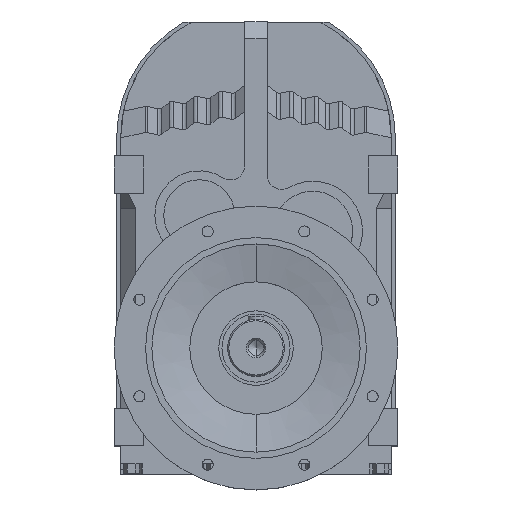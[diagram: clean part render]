
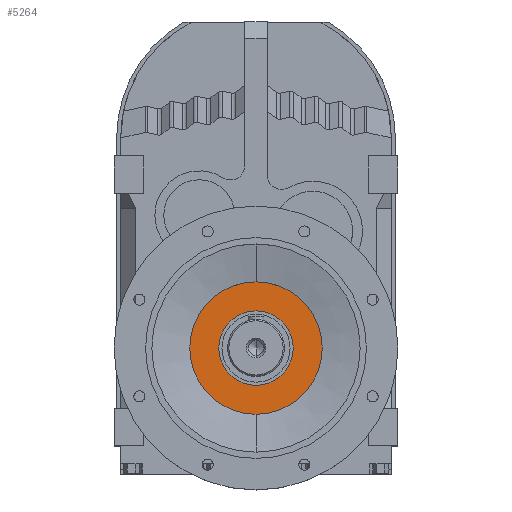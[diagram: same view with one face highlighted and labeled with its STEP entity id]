
A CAD part, top view. The second image highlights one B-rep face of the part: STEP entity #5264.
In plain terms, the highlighted planar face has unit normal (0, 0, 1).
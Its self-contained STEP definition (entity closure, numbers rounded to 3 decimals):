
#762 = CYLINDRICAL_SURFACE('',#763,106.5);
#763 = AXIS2_PLACEMENT_3D('',#764,#765,#766);
#764 = CARTESIAN_POINT('',(0.,-332.4,110.123));
#765 = DIRECTION('',(0.,0.,1.));
#766 = DIRECTION('',(1.,0.,0.));
#788 = CYLINDRICAL_SURFACE('',#789,106.5);
#789 = AXIS2_PLACEMENT_3D('',#790,#791,#792);
#790 = CARTESIAN_POINT('',(0.,-332.4,110.123));
#791 = DIRECTION('',(0.,0.,1.));
#792 = DIRECTION('',(1.,0.,0.));
#1527 = EDGE_CURVE('',#1528,#1530,#1532,.T.);
#1528 = VERTEX_POINT('',#1529);
#1529 = CARTESIAN_POINT('',(-106.5,-332.4,308.));
#1530 = VERTEX_POINT('',#1531);
#1531 = CARTESIAN_POINT('',(106.5,-332.4,308.));
#1532 = SURFACE_CURVE('',#1533,(#1538,#1544),.PCURVE_S1.);
#1533 = CIRCLE('',#1534,106.5);
#1534 = AXIS2_PLACEMENT_3D('',#1535,#1536,#1537);
#1535 = CARTESIAN_POINT('',(0.,-332.4,308.));
#1536 = DIRECTION('',(0.,0.,1.));
#1537 = DIRECTION('',(1.,0.,0.));
#1538 = PCURVE('',#788,#1539);
#1539 = DEFINITIONAL_REPRESENTATION('',(#1540),#1543);
#1540 = B_SPLINE_CURVE_WITH_KNOTS('',1,(#1541,#1542),.UNSPECIFIED.,.F.,
  .F.,(2,2),(3.142,6.283),.PIECEWISE_BEZIER_KNOTS.);
#1541 = CARTESIAN_POINT('',(3.142,197.877));
#1542 = CARTESIAN_POINT('',(6.283,197.877));
#1543 = ( GEOMETRIC_REPRESENTATION_CONTEXT(2) 
PARAMETRIC_REPRESENTATION_CONTEXT() REPRESENTATION_CONTEXT('2D SPACE',''
  ) );
#1544 = PCURVE('',#1545,#1550);
#1545 = PLANE('',#1546);
#1546 = AXIS2_PLACEMENT_3D('',#1547,#1548,#1549);
#1547 = CARTESIAN_POINT('',(0.,-225.9,308.));
#1548 = DIRECTION('',(0.,0.,1.));
#1549 = DIRECTION('',(1.,0.,0.));
#1550 = DEFINITIONAL_REPRESENTATION('',(#1551),#1555);
#1551 = CIRCLE('',#1552,106.5);
#1552 = AXIS2_PLACEMENT_2D('',#1553,#1554);
#1553 = CARTESIAN_POINT('',(0.,-106.5));
#1554 = DIRECTION('',(1.,0.));
#1555 = ( GEOMETRIC_REPRESENTATION_CONTEXT(2) 
PARAMETRIC_REPRESENTATION_CONTEXT() REPRESENTATION_CONTEXT('2D SPACE',''
  ) );
#1973 = EDGE_CURVE('',#1530,#1528,#1974,.T.);
#1974 = SURFACE_CURVE('',#1975,(#1980,#1986),.PCURVE_S1.);
#1975 = CIRCLE('',#1976,106.5);
#1976 = AXIS2_PLACEMENT_3D('',#1977,#1978,#1979);
#1977 = CARTESIAN_POINT('',(0.,-332.4,308.));
#1978 = DIRECTION('',(0.,0.,1.));
#1979 = DIRECTION('',(1.,0.,0.));
#1980 = PCURVE('',#762,#1981);
#1981 = DEFINITIONAL_REPRESENTATION('',(#1982),#1985);
#1982 = B_SPLINE_CURVE_WITH_KNOTS('',1,(#1983,#1984),.UNSPECIFIED.,.F.,
  .F.,(2,2),(0.,3.142),.PIECEWISE_BEZIER_KNOTS.);
#1983 = CARTESIAN_POINT('',(0.,197.877));
#1984 = CARTESIAN_POINT('',(3.142,197.877));
#1985 = ( GEOMETRIC_REPRESENTATION_CONTEXT(2) 
PARAMETRIC_REPRESENTATION_CONTEXT() REPRESENTATION_CONTEXT('2D SPACE',''
  ) );
#1986 = PCURVE('',#1545,#1987);
#1987 = DEFINITIONAL_REPRESENTATION('',(#1988),#1992);
#1988 = CIRCLE('',#1989,106.5);
#1989 = AXIS2_PLACEMENT_2D('',#1990,#1991);
#1990 = CARTESIAN_POINT('',(0.,-106.5));
#1991 = DIRECTION('',(1.,0.));
#1992 = ( GEOMETRIC_REPRESENTATION_CONTEXT(2) 
PARAMETRIC_REPRESENTATION_CONTEXT() REPRESENTATION_CONTEXT('2D SPACE',''
  ) );
#5264 = ADVANCED_FACE('',(#5265,#5269),#1545,.T.);
#5265 = FACE_BOUND('',#5266,.T.);
#5266 = EDGE_LOOP('',(#5267,#5268));
#5267 = ORIENTED_EDGE('',*,*,#1973,.T.);
#5268 = ORIENTED_EDGE('',*,*,#1527,.T.);
#5269 = FACE_BOUND('',#5270,.T.);
#5270 = EDGE_LOOP('',(#5271,#5301));
#5271 = ORIENTED_EDGE('',*,*,#5272,.F.);
#5272 = EDGE_CURVE('',#5273,#5275,#5277,.T.);
#5273 = VERTEX_POINT('',#5274);
#5274 = CARTESIAN_POINT('',(59.,-332.4,308.));
#5275 = VERTEX_POINT('',#5276);
#5276 = CARTESIAN_POINT('',(-59.,-332.4,308.));
#5277 = SURFACE_CURVE('',#5278,(#5283,#5290),.PCURVE_S1.);
#5278 = CIRCLE('',#5279,59.);
#5279 = AXIS2_PLACEMENT_3D('',#5280,#5281,#5282);
#5280 = CARTESIAN_POINT('',(0.,-332.4,308.));
#5281 = DIRECTION('',(0.,0.,1.));
#5282 = DIRECTION('',(1.,0.,0.));
#5283 = PCURVE('',#1545,#5284);
#5284 = DEFINITIONAL_REPRESENTATION('',(#5285),#5289);
#5285 = CIRCLE('',#5286,59.);
#5286 = AXIS2_PLACEMENT_2D('',#5287,#5288);
#5287 = CARTESIAN_POINT('',(0.,-106.5));
#5288 = DIRECTION('',(1.,0.));
#5289 = ( GEOMETRIC_REPRESENTATION_CONTEXT(2) 
PARAMETRIC_REPRESENTATION_CONTEXT() REPRESENTATION_CONTEXT('2D SPACE',''
  ) );
#5290 = PCURVE('',#5291,#5296);
#5291 = CYLINDRICAL_SURFACE('',#5292,59.);
#5292 = AXIS2_PLACEMENT_3D('',#5293,#5294,#5295);
#5293 = CARTESIAN_POINT('',(0.,-332.4,110.123));
#5294 = DIRECTION('',(0.,0.,1.));
#5295 = DIRECTION('',(1.,0.,0.));
#5296 = DEFINITIONAL_REPRESENTATION('',(#5297),#5300);
#5297 = B_SPLINE_CURVE_WITH_KNOTS('',1,(#5298,#5299),.UNSPECIFIED.,.F.,
  .F.,(2,2),(0.,3.142),.PIECEWISE_BEZIER_KNOTS.);
#5298 = CARTESIAN_POINT('',(0.,197.877));
#5299 = CARTESIAN_POINT('',(3.142,197.877));
#5300 = ( GEOMETRIC_REPRESENTATION_CONTEXT(2) 
PARAMETRIC_REPRESENTATION_CONTEXT() REPRESENTATION_CONTEXT('2D SPACE',''
  ) );
#5301 = ORIENTED_EDGE('',*,*,#5302,.F.);
#5302 = EDGE_CURVE('',#5275,#5273,#5303,.T.);
#5303 = SURFACE_CURVE('',#5304,(#5309,#5316),.PCURVE_S1.);
#5304 = CIRCLE('',#5305,59.);
#5305 = AXIS2_PLACEMENT_3D('',#5306,#5307,#5308);
#5306 = CARTESIAN_POINT('',(0.,-332.4,308.));
#5307 = DIRECTION('',(0.,0.,1.));
#5308 = DIRECTION('',(1.,0.,0.));
#5309 = PCURVE('',#1545,#5310);
#5310 = DEFINITIONAL_REPRESENTATION('',(#5311),#5315);
#5311 = CIRCLE('',#5312,59.);
#5312 = AXIS2_PLACEMENT_2D('',#5313,#5314);
#5313 = CARTESIAN_POINT('',(0.,-106.5));
#5314 = DIRECTION('',(1.,0.));
#5315 = ( GEOMETRIC_REPRESENTATION_CONTEXT(2) 
PARAMETRIC_REPRESENTATION_CONTEXT() REPRESENTATION_CONTEXT('2D SPACE',''
  ) );
#5316 = PCURVE('',#5317,#5322);
#5317 = CYLINDRICAL_SURFACE('',#5318,59.);
#5318 = AXIS2_PLACEMENT_3D('',#5319,#5320,#5321);
#5319 = CARTESIAN_POINT('',(0.,-332.4,110.123));
#5320 = DIRECTION('',(0.,0.,1.));
#5321 = DIRECTION('',(1.,0.,0.));
#5322 = DEFINITIONAL_REPRESENTATION('',(#5323),#5326);
#5323 = B_SPLINE_CURVE_WITH_KNOTS('',1,(#5324,#5325),.UNSPECIFIED.,.F.,
  .F.,(2,2),(3.142,6.283),.PIECEWISE_BEZIER_KNOTS.);
#5324 = CARTESIAN_POINT('',(3.142,197.877));
#5325 = CARTESIAN_POINT('',(6.283,197.877));
#5326 = ( GEOMETRIC_REPRESENTATION_CONTEXT(2) 
PARAMETRIC_REPRESENTATION_CONTEXT() REPRESENTATION_CONTEXT('2D SPACE',''
  ) );
